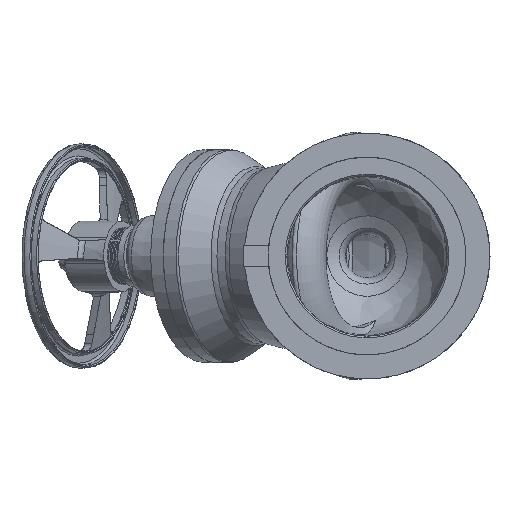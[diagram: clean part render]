
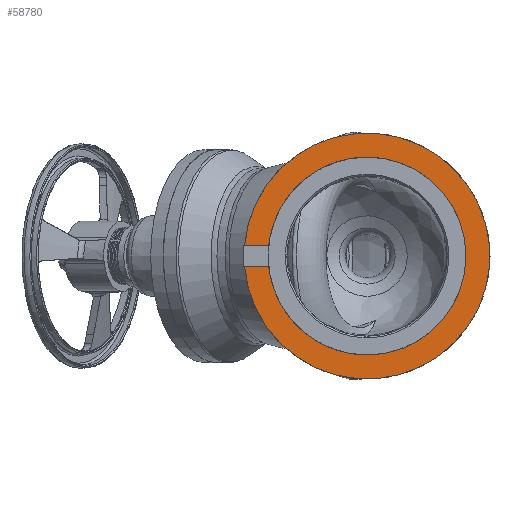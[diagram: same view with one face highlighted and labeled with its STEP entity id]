
A CAD part, left-side view. The second image highlights one B-rep face of the part: STEP entity #58780.
In plain terms, the highlighted planar face has unit normal (-1, 0, 0) by its records, which use the part's own axes.
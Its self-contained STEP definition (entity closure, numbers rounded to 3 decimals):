
#49822=CARTESIAN_POINT('',(-846.,229.213,19.015));
#49823=VERTEX_POINT('',#49822);
#49840=CARTESIAN_POINT('',(-846.,229.213,-19.015));
#49841=VERTEX_POINT('',#49840);
#49842=CARTESIAN_POINT('',(-846.,0.0,0.0));
#49843=DIRECTION('',(-1.0,0.0,0.0));
#49844=DIRECTION('',(0.0,-1.0,0.0));
#49845=AXIS2_PLACEMENT_3D('',#49842,#49843,#49844);
#49846=CIRCLE('',#49845,230.);
#49847=EDGE_CURVE('',#49841,#49823,#49846,.T.);
#58749=CARTESIAN_POINT('',(-846.,-207.5,0.0));
#58750=DIRECTION('',(-1.0,0.0,0.0));
#58751=DIRECTION('',(0.0,0.0,1.0));
#58752=AXIS2_PLACEMENT_3D('',#58749,#58750,#58751);
#58753=PLANE('',#58752);
#58754=CARTESIAN_POINT('',(-846.,184.02,19.015));
#58755=VERTEX_POINT('',#58754);
#58756=CARTESIAN_POINT('',(-846.,229.213,19.015));
#58757=DIRECTION('',(0.,-1.0,0.));
#58758=VECTOR('',#58757,45.193);
#58759=LINE('',#58756,#58758);
#58760=EDGE_CURVE('',#49823,#58755,#58759,.T.);
#58761=ORIENTED_EDGE('',*,*,#58760,.T.);
#58762=CARTESIAN_POINT('',(-846.,184.02,-19.015));
#58763=VERTEX_POINT('',#58762);
#58764=CARTESIAN_POINT('',(-846.,0.0,0.0));
#58765=DIRECTION('',(-1.0,0.0,0.0));
#58766=DIRECTION('',(0.0,-1.0,0.0));
#58767=AXIS2_PLACEMENT_3D('',#58764,#58765,#58766);
#58768=CIRCLE('',#58767,185.);
#58769=EDGE_CURVE('',#58763,#58755,#58768,.T.);
#58770=ORIENTED_EDGE('',*,*,#58769,.F.);
#58771=CARTESIAN_POINT('',(-846.,184.02,-19.015));
#58772=DIRECTION('',(0.,1.0,0.));
#58773=VECTOR('',#58772,45.193);
#58774=LINE('',#58771,#58773);
#58775=EDGE_CURVE('',#58763,#49841,#58774,.T.);
#58776=ORIENTED_EDGE('',*,*,#58775,.T.);
#58777=ORIENTED_EDGE('',*,*,#49847,.T.);
#58778=EDGE_LOOP('',(#58761,#58770,#58776,#58777));
#58779=FACE_OUTER_BOUND('',#58778,.T.);
#58780=ADVANCED_FACE('',(#58779),#58753,.T.);
